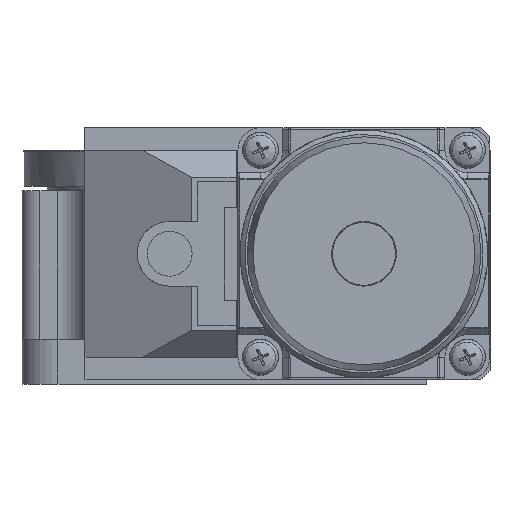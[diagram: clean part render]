
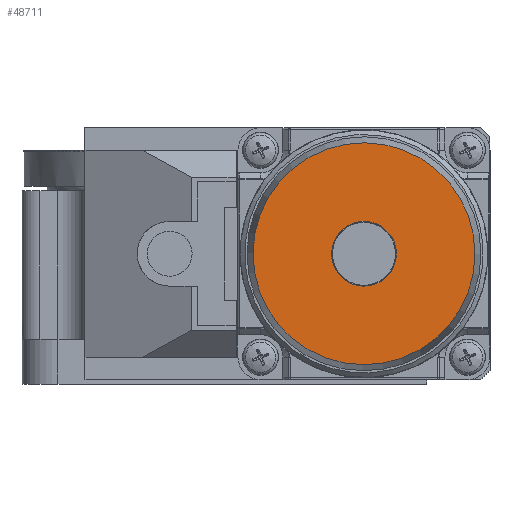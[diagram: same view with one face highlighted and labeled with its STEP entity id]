
A CAD part, front view. The second image highlights one B-rep face of the part: STEP entity #48711.
In plain terms, the highlighted planar face has unit normal (0, -1, 0).
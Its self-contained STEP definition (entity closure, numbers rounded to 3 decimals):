
#11540=FACE_BOUND('',#17044,.T.);
#11541=FACE_BOUND('',#17045,.T.);
#17044=EDGE_LOOP('',(#44393));
#17045=EDGE_LOOP('',(#44394));
#18250=CIRCLE('',#51767,3.6);
#18252=CIRCLE('',#51771,12.33);
#23068=VERTEX_POINT('',#149870);
#23070=VERTEX_POINT('',#149876);
#30206=EDGE_CURVE('',#23068,#23068,#18250,.T.);
#30208=EDGE_CURVE('',#23070,#23070,#18252,.T.);
#44393=ORIENTED_EDGE('',*,*,#30206,.T.);
#44394=ORIENTED_EDGE('',*,*,#30208,.T.);
#46115=PLANE('',#51772);
#48711=ADVANCED_FACE('',(#11540,#11541),#46115,.T.);
#51767=AXIS2_PLACEMENT_3D('',#149871,#61938,#61939);
#51771=AXIS2_PLACEMENT_3D('',#149877,#61946,#61947);
#51772=AXIS2_PLACEMENT_3D('',#149878,#61948,#61949);
#61938=DIRECTION('center_axis',(0.,1.,0.));
#61939=DIRECTION('ref_axis',(-0.763,0.,0.647));
#61946=DIRECTION('center_axis',(0.,-1.,0.));
#61947=DIRECTION('ref_axis',(-0.763,0.,0.647));
#61948=DIRECTION('center_axis',(0.,-1.,0.));
#61949=DIRECTION('ref_axis',(-0.763,0.,0.647));
#149870=CARTESIAN_POINT('',(1.093,-80.537,3.979));
#149871=CARTESIAN_POINT('Origin',(3.839,-80.537,1.65));
#149876=CARTESIAN_POINT('',(-5.565,-80.537,9.625));
#149877=CARTESIAN_POINT('Origin',(3.839,-80.537,1.65));
#149878=CARTESIAN_POINT('Origin',(-0.863,-80.537,
5.638));
